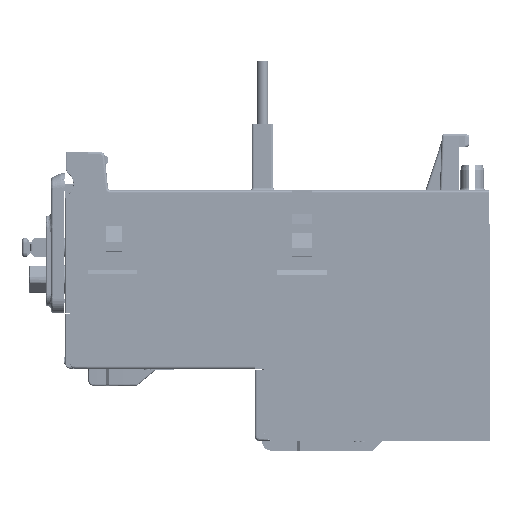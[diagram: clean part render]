
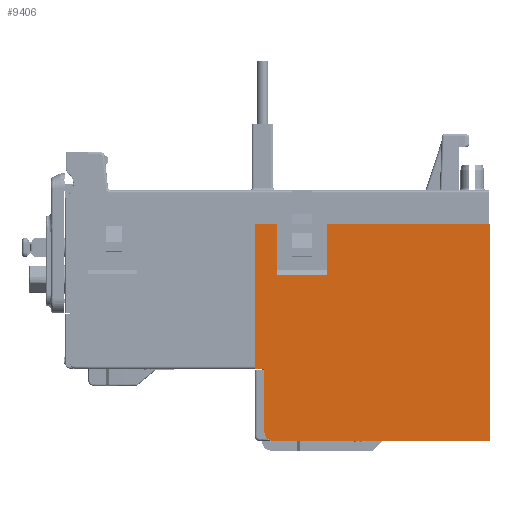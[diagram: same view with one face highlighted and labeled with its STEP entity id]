
A CAD part, left-side view. The second image highlights one B-rep face of the part: STEP entity #9406.
In plain terms, the highlighted planar face has unit normal (-1, 0, 0).
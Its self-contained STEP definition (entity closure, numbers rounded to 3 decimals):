
#4930=CIRCLE('',#120454,2.);
#9406=ADVANCED_FACE('',(#19485),#14409,.T.);
#14409=PLANE('',#120459);
#19485=FACE_OUTER_BOUND('',#25712,.T.);
#25712=EDGE_LOOP('',(#48706,#48707,#48708,#48709,#48710,#48711,#48712,#48713,
#48714,#48715,#48716));
#48706=ORIENTED_EDGE('',*,*,#83123,.T.);
#48707=ORIENTED_EDGE('',*,*,#83058,.T.);
#48708=ORIENTED_EDGE('',*,*,#83616,.F.);
#48709=ORIENTED_EDGE('',*,*,#83887,.T.);
#48710=ORIENTED_EDGE('',*,*,#83888,.T.);
#48711=ORIENTED_EDGE('',*,*,#83889,.T.);
#48712=ORIENTED_EDGE('',*,*,#83612,.F.);
#48713=ORIENTED_EDGE('',*,*,#83472,.F.);
#48714=ORIENTED_EDGE('',*,*,#83876,.T.);
#48715=ORIENTED_EDGE('',*,*,#83863,.F.);
#48716=ORIENTED_EDGE('',*,*,#83861,.T.);
#69219=VERTEX_POINT('',#193010);
#69220=VERTEX_POINT('',#193012);
#69282=VERTEX_POINT('',#193327);
#69551=VERTEX_POINT('',#194121);
#69552=VERTEX_POINT('',#194123);
#69662=VERTEX_POINT('',#194385);
#69665=VERTEX_POINT('',#194391);
#69790=VERTEX_POINT('',#194854);
#69791=VERTEX_POINT('',#194858);
#69805=VERTEX_POINT('',#194899);
#69806=VERTEX_POINT('',#194901);
#83058=EDGE_CURVE('',#69220,#69219,#97340,.T.);
#83123=EDGE_CURVE('',#69282,#69220,#97349,.T.);
#83472=EDGE_CURVE('',#69551,#69552,#97637,.T.);
#83612=EDGE_CURVE('',#69552,#69662,#97773,.T.);
#83616=EDGE_CURVE('',#69665,#69219,#97777,.T.);
#83861=EDGE_CURVE('',#69790,#69282,#4930,.T.);
#83863=EDGE_CURVE('',#69790,#69791,#98016,.T.);
#83876=EDGE_CURVE('',#69551,#69791,#98029,.T.);
#83887=EDGE_CURVE('',#69665,#69805,#98040,.T.);
#83888=EDGE_CURVE('',#69805,#69806,#98041,.T.);
#83889=EDGE_CURVE('',#69806,#69662,#98042,.T.);
#97340=LINE('',#193011,#109595);
#97349=LINE('',#193326,#109604);
#97637=LINE('',#194122,#109892);
#97773=LINE('',#194384,#110028);
#97777=LINE('',#194392,#110032);
#98016=LINE('',#194857,#110271);
#98029=LINE('',#194882,#110284);
#98040=LINE('',#194898,#110295);
#98041=LINE('',#194900,#110296);
#98042=LINE('',#194902,#110297);
#109595=VECTOR('',#140519,1.);
#109604=VECTOR('',#140560,1.);
#109892=VECTOR('',#141048,1.);
#110028=VECTOR('',#141216,1.);
#110032=VECTOR('',#141220,1.);
#110271=VECTOR('',#141661,1.);
#110284=VECTOR('',#141678,1.);
#110295=VECTOR('',#141691,1.);
#110296=VECTOR('',#141692,1.);
#110297=VECTOR('',#141693,1.);
#120454=AXIS2_PLACEMENT_3D('',#194853,#141656,#141657);
#120459=AXIS2_PLACEMENT_3D('',#194903,#141694,#141695);
#140519=DIRECTION('',(0.,0.,1.));
#140560=DIRECTION('',(0.,-1.,0.));
#141048=DIRECTION('',(0.,0.,1.));
#141216=DIRECTION('',(0.,-1.,0.));
#141220=DIRECTION('',(0.,-1.,0.));
#141656=DIRECTION('',(-1.,0.,0.));
#141657=DIRECTION('',(0.,1.,0.));
#141661=DIRECTION('',(0.,0.,1.));
#141678=DIRECTION('',(0.,-1.,0.));
#141691=DIRECTION('',(0.,0.,-1.));
#141692=DIRECTION('',(0.,1.,0.));
#141693=DIRECTION('',(0.,0.,1.));
#141694=DIRECTION('',(-1.,0.,0.));
#141695=DIRECTION('',(0.,1.,0.));
#193010=CARTESIAN_POINT('',(-111.018,42.403,38.893));
#193011=CARTESIAN_POINT('',(-111.018,42.403,-6.107));
#193012=CARTESIAN_POINT('',(-111.018,42.403,-6.107));
#193326=CARTESIAN_POINT('',(-111.018,87.203,-6.107));
#193327=CARTESIAN_POINT('',(-111.018,87.203,-6.107));
#194121=CARTESIAN_POINT('',(-111.018,91.203,8.893));
#194122=CARTESIAN_POINT('',(-111.018,91.203,8.893));
#194123=CARTESIAN_POINT('',(-111.018,91.203,38.893));
#194384=CARTESIAN_POINT('',(-111.018,91.203,38.893));
#194385=CARTESIAN_POINT('',(-111.018,86.603,38.893));
#194391=CARTESIAN_POINT('',(-111.018,76.203,38.893));
#194392=CARTESIAN_POINT('',(-111.018,76.203,38.893));
#194853=CARTESIAN_POINT('',(-111.018,87.203,-4.107));
#194854=CARTESIAN_POINT('',(-111.018,89.203,-4.107));
#194857=CARTESIAN_POINT('',(-111.018,89.203,-4.107));
#194858=CARTESIAN_POINT('',(-111.018,89.203,8.893));
#194882=CARTESIAN_POINT('',(-111.018,91.203,8.893));
#194898=CARTESIAN_POINT('',(-111.018,76.203,38.893));
#194899=CARTESIAN_POINT('',(-111.018,76.203,28.293));
#194900=CARTESIAN_POINT('',(-111.018,76.203,28.293));
#194901=CARTESIAN_POINT('',(-111.018,86.603,28.293));
#194902=CARTESIAN_POINT('',(-111.018,86.603,28.293));
#194903=CARTESIAN_POINT('',(-111.018,91.203,-6.107));
